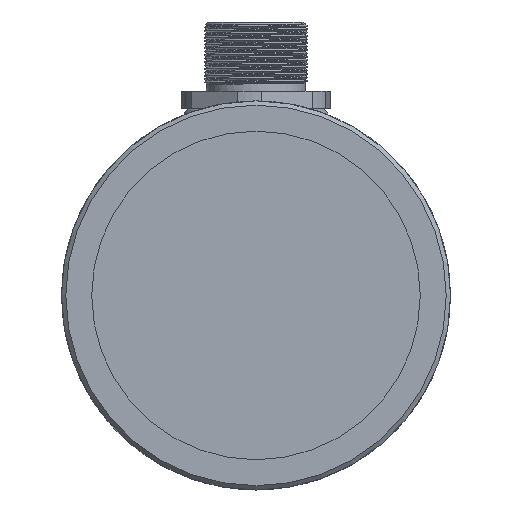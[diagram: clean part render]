
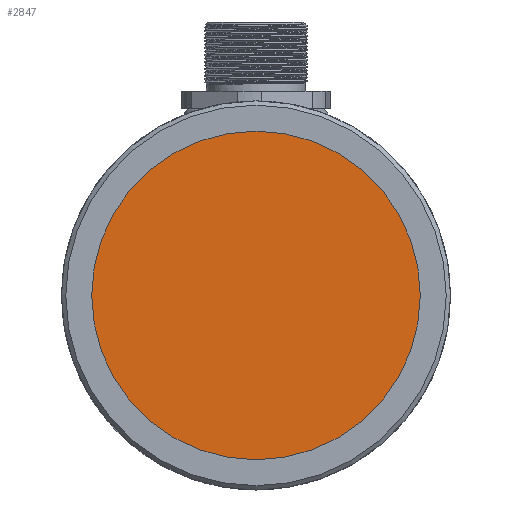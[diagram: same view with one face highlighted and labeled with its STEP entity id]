
A CAD part, left-side view. The second image highlights one B-rep face of the part: STEP entity #2847.
In plain terms, the highlighted planar face has unit normal (-1, 0, 0).
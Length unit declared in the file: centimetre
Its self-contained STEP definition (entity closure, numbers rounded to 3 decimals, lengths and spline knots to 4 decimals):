
#809=CIRCLE('',#3031,1.9);
#907=VERTEX_POINT('',#3757);
#1380=EDGE_CURVE('',#907,#907,#809,.T.);
#1746=ORIENTED_EDGE('',*,*,#1380,.T.);
#2415=EDGE_LOOP('',(#1746));
#2634=FACE_BOUND('',#2415,.T.);
#2847=ADVANCED_FACE('',(#2634),#16294,.T.);
#3031=AXIS2_PLACEMENT_3D('',#3756,#3272,#3273);
#3033=AXIS2_PLACEMENT_3D('',#3760,#3276,$);
#3272=DIRECTION('',(-1.,0.,0.));
#3273=DIRECTION('',(0.,0.,1.9));
#3276=DIRECTION('',(-1.,0.,0.));
#3756=CARTESIAN_POINT('',(0.1,0.,0.));
#3757=CARTESIAN_POINT('',(0.1,0.,1.9));
#3760=CARTESIAN_POINT('',(0.1,0.,0.));
#16294=PLANE('',#3033);
